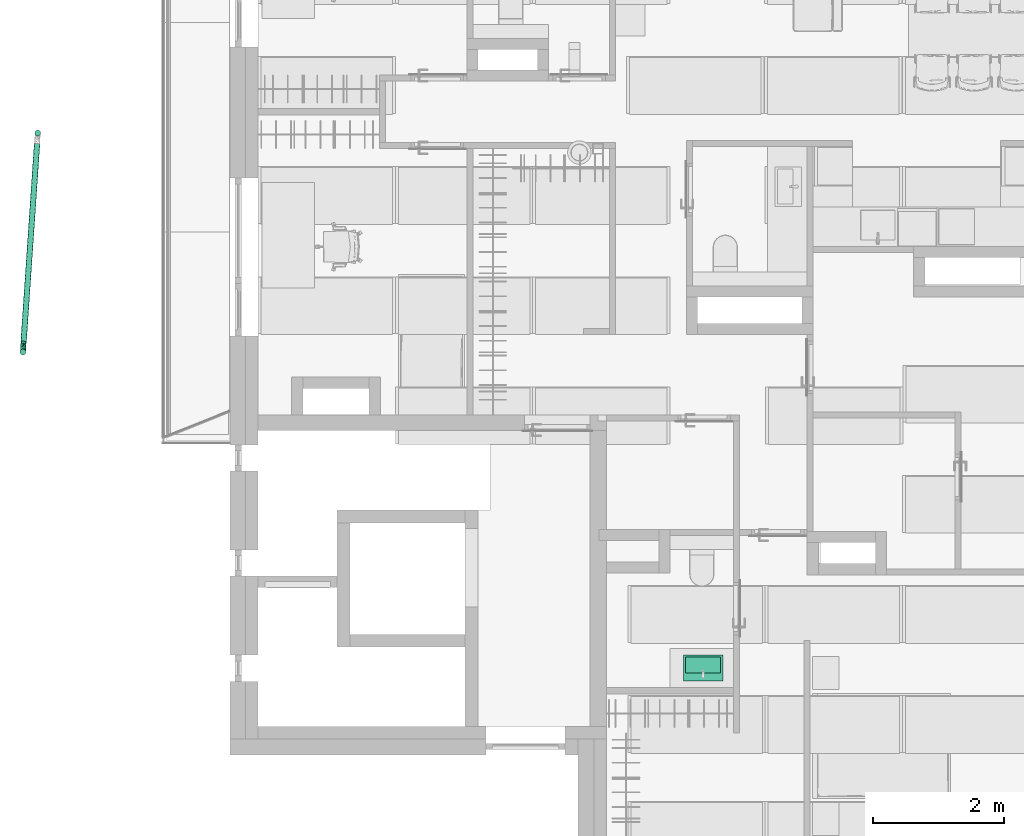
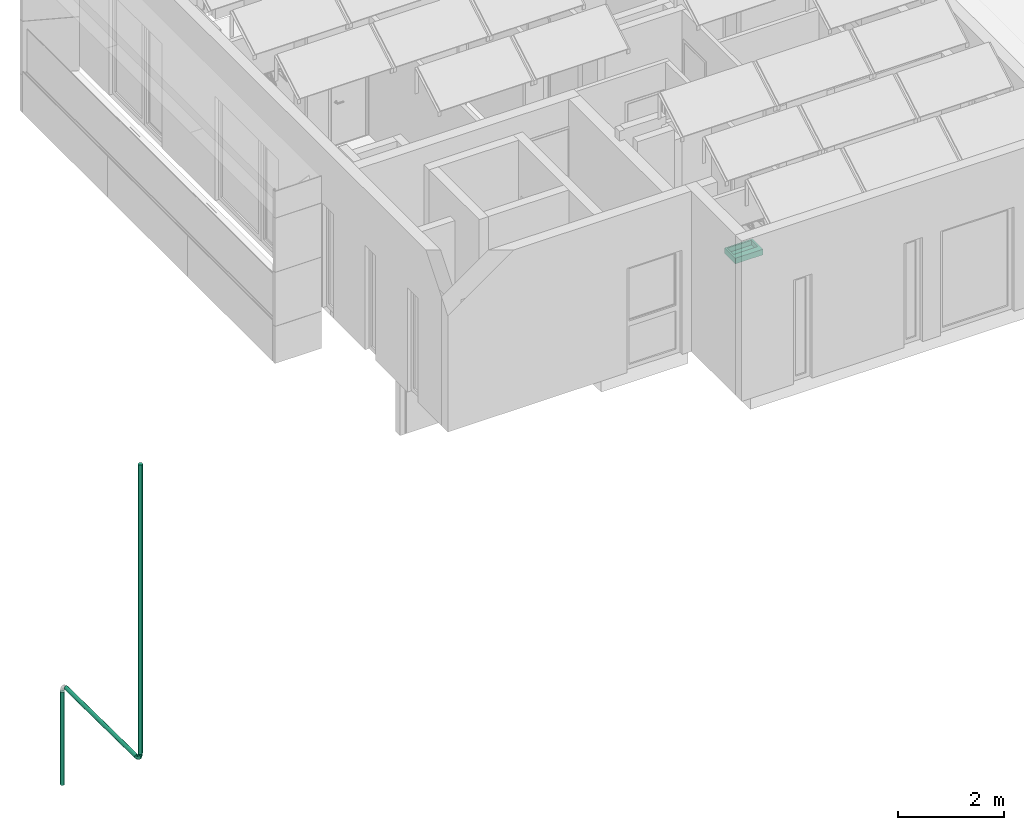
# One storey, part 23 of 57: 3 flow segments, 1 flow fitting, 1 flow terminal.
"""IFC2X3 building model written with IfcOpenShell, lengths in millimetres."""

from ifc_helpers import new_model, entity, si_unit, converted_unit, direction, frame, frame_2d, origin, place, context, subcontext, project, spatial, circle, extrude, faceted_brep, source, transform, mapped, material, type_object, type_shapes, element, save


model = new_model("IFC2X3")

# Units and contexts
model_context = context("Model", 3, precision=0.01, world=origin(), true_north=direction((6.123233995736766e-17, 1.0)))
plan_context = context("Plan", 3, precision=0.01, world=origin(), true_north=direction((6.123233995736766e-17, 1.0)))
body_context = subcontext(model_context, "Body", "Model", "MODEL_VIEW")
ifc_project = project(units=[si_unit("LENGTHUNIT", "METRE", prefix="MILLI"), converted_unit("PLANEANGLEUNIT", "DEGREE", entity("IfcPlaneAngleMeasure", 0.017453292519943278), si_unit("PLANEANGLEUNIT", "RADIAN"), dimensions=[0, 0, 0, 0, 0, 0, 0]), si_unit("AREAUNIT", "SQUARE_METRE")], contexts=[model_context, plan_context])

# Site, building, storey, space
site_placement = place(None, origin())
site = spatial("IfcSite", under=ifc_project, at=site_placement, Name="Default", CompositionType="ELEMENT")
building_placement = place(site_placement, origin())
building = spatial("IfcBuilding", under=site, at=building_placement, CompositionType="ELEMENT")
storey_placement = place(building_placement, frame((0.0, 0.0, 12811.000000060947)))
storey = spatial("IfcBuildingStorey", under=building, at=storey_placement, Name="5K", CompositionType="ELEMENT", Elevation=12811.000000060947)
space_placement = place(storey_placement, origin())
space = spatial("IfcSpace", under=storey, at=space_placement, Name="5-12.8", CompositionType="ELEMENT", InteriorOrExteriorSpace="INTERNAL")

# Flow terminal
ifc_material_1 = material(Name="<Unnamed>")
distribution_element_type = type_object("IfcDistributionElementType", Name="HR_Plumbing-fixtures_Sink_Generic_Bathroom_v1:600 x 400 mm", material=ifc_material_1)
shared_shape_1 = source(origin(), body_context, "Body", "Brep", [
    faceted_brep([(300.0, 0.0, 0.0), (-300.0, 0.0, 0.0), (-300.0, -400.0, 0.0), (300.0, -400.0, 0.0), (-265.0, -125.0, 0.0), (265.0, -125.0, 0.0), (265.0, -365.0, 0.0), (-265.0, -365.0, 0.0), (300.0, 0.0, -130.0), (300.0, -400.0, -130.0), (-300.0, -400.0, -130.0), (-300.0, 0.0, -130.0), (265.0, -125.0, -110.0), (-265.0, -125.0, -110.0), (-265.0, -365.0, -110.0), (265.0, -365.0, -110.0)], [[[0, 1, 2, 3], [4, 5, 6, 7]], [[8, 9, 10, 11]], [[1, 0, 8, 11]], [[2, 1, 11, 10]], [[3, 2, 10, 9]], [[0, 3, 9, 8]], [[12, 13, 14, 15]], [[13, 12, 5, 4]], [[14, 13, 4, 7]], [[15, 14, 7, 6]], [[12, 15, 6, 5]]]),
])
type_shapes(distribution_element_type, [shared_shape_1])
flow_terminal_placement = place(space_placement, frame((6774.9971970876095, 2592.0, 900.0), z_axis=(0.0, 0.0, 1.0), x_axis=(-1.0, 0.0, 0.0)))
element("IfcFlowTerminal", 1, at=flow_terminal_placement, inside=space, type_object=distribution_element_type, material=ifc_material_1, Name="HR_Plumbing-fixtures_Sink_Generic_Bathroom_v1:600 x 400 mm", ObjectType="HR_Plumbing-fixtures_Sink_Generic_Bathroom_v1:600 x 400 mm", context=body_context, shape_type="MappedRepresentation", body=[
    mapped(shared_shape_1, transform((0.0, 0.0, 0.0), scale=1.0)),
])

# Flow segments
ifc_material_2 = material(Name="_K. Metall. Plekk. Värvitud. Valge")
pipe_segment_type = type_object("IfcPipeSegmentType", Name="Pipe Types:Default", PredefinedType="NOTDEFINED", material=ifc_material_2)
flow_segment_1_placement = place(storey_placement, frame((-3627.4438401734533, 7556.996853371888, -3345.999923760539)))
element("IfcFlowSegment", 2, at=flow_segment_1_placement, inside=storey, type_object=pipe_segment_type, Name="Pipe Types:Default", ObjectType="Pipe Types:Default", context=body_context, shape_type="SweptSolid", body=[
    extrude(circle(Radius=44.45, at=frame_2d((0.0, -1.0828671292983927e-12), x_axis=(1.0, 0.0))), frame((46.04527223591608, 46.04527223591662, -6657.927272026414)), (0.0, 0.0, 1.0), 6657.927272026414),
])
flow_segment_2_placement = place(storey_placement, frame((-3616.4198935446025, 7756.740767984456, -10137.139366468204)))
element("IfcFlowSegment", 3, at=flow_segment_2_placement, inside=storey, type_object=pipe_segment_type, Name="Pipe Types:Default", ObjectType="Pipe Types:Default", context=body_context, shape_type="SweptSolid", body=[
    extrude(circle(Radius=44.45, at=frame_2d((7.337440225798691e-14, 1.1293029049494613e-13), x_axis=(1.0, 0.0))), frame((45.943112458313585, 7.115781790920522, -45.801770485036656), z_axis=(0.06738818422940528, 0.9922361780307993, -0.10452846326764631), x_axis=(0.9977016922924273, -0.06775937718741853, 0.0)), (0.0, 0.0, 1.0), 3035.308956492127),
])
flow_segment_3_placement = place(storey_placement, frame((-3401.056307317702, 10890.369059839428, -10679.231258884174)))
element("IfcFlowSegment", 4, at=flow_segment_3_placement, inside=storey, type_object=pipe_segment_type, Name="Pipe Types:Default", ObjectType="Pipe Types:Default", context=body_context, shape_type="SweptSolid", body=[
    extrude(circle(Radius=44.45, at=frame_2d((5.414335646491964e-13, 0.0), x_axis=(1.0, 0.0))), frame((46.04527223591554, 46.04527223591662, -2137.92727202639)), (0.0, 0.0, 1.0), 2137.9272720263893),
])

# Flow fitting
pipe_fitting_type = type_object("IfcPipeFittingType", Name="Elbow - Welded - SS:D+100", PredefinedType="NOTDEFINED", material=ifc_material_1)
shared_shape_2 = source(origin(), body_context, "Body", "Brep", [
    faceted_brep([(-162.07272797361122, 21.0, -36.3730669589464), (-162.07272797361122, 10.870399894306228, -40.568884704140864), (-162.07272797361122, 0.0, -42.0), (-162.07272797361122, -10.870399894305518, -40.56888470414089), (-162.07272797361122, -21.0, -36.37306695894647), (-162.07272797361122, -29.698484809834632, -29.698484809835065), (-162.07272797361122, -36.373066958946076, -21.0), (-162.07272797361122, -40.56888470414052, -10.870399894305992), (-162.07272797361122, -42.0, 0.0), (-162.07272797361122, -40.568884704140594, 10.870399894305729), (-162.07272797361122, -36.37306695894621, 21.0), (-162.07272797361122, -29.698484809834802, 29.698484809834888), (-162.07272797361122, -21.0, 36.37306695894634), (-162.07272797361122, -10.870399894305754, 40.56888470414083), (-162.07272797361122, 0.0, 42.0), (-162.07272797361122, 10.870399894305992, 40.56888470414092), (-162.07272797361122, 21.0, 36.37306695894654), (-162.07272797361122, 29.69848480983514, 29.69848480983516), (-162.07272797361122, 36.3730669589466, 21.0), (-162.07272797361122, 40.5688847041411, 10.870399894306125), (-162.07272797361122, 42.0, 0.0), (-162.07272797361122, 40.56888470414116, -10.870399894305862), (-162.07272797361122, 36.37306695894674, -21.0), (-162.07272797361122, 29.69848480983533, -29.698484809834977), (16.941213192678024, 161.184876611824, -42.0), (6.1303624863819, 162.3211428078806, -40.568884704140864), (-3.9437466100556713, 163.37997434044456, -36.3730669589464), (-12.594580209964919, 164.28921359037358, -29.698484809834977), (-19.232598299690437, 164.98689740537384, -21.0), (-23.405430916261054, 165.42547978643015, -10.870399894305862), (-24.828706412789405, 165.5750720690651, 0.0), (-23.405430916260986, 165.42547978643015, 10.870399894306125), (-19.232598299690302, 164.98689740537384, 21.0), (-12.594580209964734, 164.28921359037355, 29.69848480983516), (-3.9437466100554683, 163.37997434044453, 36.37306695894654), (6.130362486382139, 162.32114280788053, 40.56888470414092), (16.941213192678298, 161.18487661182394, 42.0), (27.752063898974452, 160.0486104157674, 40.56888470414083), (37.82617299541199, 158.9897788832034, 36.37306695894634), (46.47700659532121, 158.08053963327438, 29.698484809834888), (53.11502468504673, 157.3828558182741, 21.0), (57.28785730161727, 156.94427343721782, 10.870399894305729), (58.71113279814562, 156.79468115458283, 0.0), (57.28785730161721, 156.94427343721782, -10.870399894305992), (53.11502468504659, 157.38285581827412, -21.0), (46.477006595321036, 158.0805396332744, -29.698484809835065), (37.82617299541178, 158.9897788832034, -36.37306695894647), (27.752063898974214, 160.04861041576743, -40.56888470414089), (-110.56733650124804, 41.731487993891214, 26.66447147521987), (-96.97531827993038, -30.588546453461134, 11.409689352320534), (-115.91633261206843, -37.14876736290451, 0.0), (-71.77719321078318, -22.807091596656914, 0.0), (-117.65635294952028, -21.580303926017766, 32.65289887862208), (-67.02680210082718, -6.717553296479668, 29.879340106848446), (-81.44922119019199, -0.7545087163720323, 37.985157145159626), (-31.584401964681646, 0.39822724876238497, 0.0), (-52.46885327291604, -12.10830557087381, 8.28109867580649), (-128.5507731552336, -38.74077397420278, 7.665883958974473), (-121.4654040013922, 30.102435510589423, 33.96958931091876), (-105.50169997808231, -26.534581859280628, 24.460598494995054), (-14.582607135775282, 16.195626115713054, 11.409689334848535), (-55.226449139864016, -10.116958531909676, 17.709233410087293), (2.905423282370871, 31.45300538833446, 0.0), (17.526463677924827, 50.91576092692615, 8.281098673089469), (30.184911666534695, 69.0, 0.0), (49.061818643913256, 111.39822724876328, 0.0), (40.55766024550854, 93.24670370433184, 11.40968933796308), (-124.48403403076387, -13.299346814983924, 38.44097240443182), (51.58924932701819, 122.57985946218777, 7.937631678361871), (21.9772933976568, 69.84574062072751, 23.9593857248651), (37.417153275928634, 102.15013170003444, 24.460598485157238), (-131.81244201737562, -36.97926915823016, 15.38887600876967), (11.316322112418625, 110.64701490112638, 41.45489639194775), (-131.22577070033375, 18.241571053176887, 39.10364315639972), (-14.8272829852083, 43.61641709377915, 36.54291873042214), (-27.094842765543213, 44.48150818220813, 40.45964027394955), (-48.287288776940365, 19.983022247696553, 38.68773764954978), (-27.61751167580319, 135.8830238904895, 16.803737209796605), (-120.66021736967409, 9.384167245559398, 41.765696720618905), (-11.559181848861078, 80.37087827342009, 41.997022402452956), (-3.935290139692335, 75.66370100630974, 40.92172074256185), (-17.24093920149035, 123.94656510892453, 33.96958931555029), (-29.9454447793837, 114.3237653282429, 26.66447148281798), (-132.25182644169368, 41.669863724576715, 16.803737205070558), (-106.03351894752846, 48.01388393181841, 20.58438754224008), (-100.01661743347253, 54.07574904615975, 13.951054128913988), (3.2796673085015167, 120.98014064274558, 41.765696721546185), (-128.17389313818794, 45.31366043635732, 8.585112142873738), (-36.6673380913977, 110.47147367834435, 20.584387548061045), (-67.6658136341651, 75.15049941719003, 15.809105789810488), (-64.57303448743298, 71.7156201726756, 24.25417203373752), (-111.22375666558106, 0.3114323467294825, 41.454896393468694), (-85.70469417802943, 65.0568687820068, 0.0), (-122.18633999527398, 47.88990934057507, 0.0), (-72.62091876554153, 53.993574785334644, 33.39511468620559), (9.264137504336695, 80.92416641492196, 37.98515713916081), (26.238616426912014, 122.41193731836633, 38.44097240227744), (-15.694391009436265, 21.185331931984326, 21.661341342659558), (-71.76037081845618, -14.55603142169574, 23.95938575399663), (13.686962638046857, 65.95744692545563, 29.87934005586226), (33.760522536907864, 114.75606312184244, 32.652898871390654), (15.834272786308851, 53.86640295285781, 17.70923340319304), (-41.30964661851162, 4.170445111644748, 25.5863793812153), (-40.40309524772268, 85.91490640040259, 32.82897046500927), (-69.29565525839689, 76.96062193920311, 7.378264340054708), (-55.74190047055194, 92.03548941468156, 0.0), (-31.667607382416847, 132.20831042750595, 8.585112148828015), (-43.32493313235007, 105.121170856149, 13.951054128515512), (-34.85561305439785, 126.52284906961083, 0.0), (-4.424813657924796, 132.41366559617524, 39.1036431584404), (-47.58448069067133, 65.05978990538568, 38.055921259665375), (-33.9023860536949, 67.89311462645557, 40.859997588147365), (-18.886781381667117, 96.7841946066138, 39.458380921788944), (-74.0404588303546, 11.972112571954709, 40.86643261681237), (-78.72233474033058, 19.89690384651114, 41.997022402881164), (-85.72543998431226, 24.853456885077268, 41.39798282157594), (-94.27979441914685, 28.90002076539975, 39.458380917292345), (-54.85152587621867, 6.971313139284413, 34.77188383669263), (-22.22424710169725, 24.682527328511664, 30.38065262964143), (-14.189052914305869, 90.2422279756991, 41.4111109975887), (-43.10767931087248, 47.87592808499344, 41.9418407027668), (-62.59305792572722, 42.38813045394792, 40.7434848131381), (-121.25875142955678, 20.210400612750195, -39.1992802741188), (-110.44262917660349, 11.91464013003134, -41.79309081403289), (-19.4287662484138, 17.822885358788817, -21.66134132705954), (5.085518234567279, 47.91842040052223, -25.925743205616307), (15.834272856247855, 53.866403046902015, -17.709233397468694), (-122.27113228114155, -2.1691353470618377, -41.49920716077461), (-118.33974329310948, 39.22490951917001, -26.495295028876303), (-93.9673993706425, 52.851472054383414, -22.027237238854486), (-86.31195071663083, 50.94742629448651, -29.029347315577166), (-133.00303818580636, 27.700793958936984, -33.78508441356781), (-97.72281546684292, 38.06499010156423, -34.3562086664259), (-113.41492077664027, -11.074257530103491, -38.32895492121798), (-128.17389413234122, 45.313660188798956, -8.585112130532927), (22.86867887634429, 111.63604668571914, -38.32895493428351), (0.029757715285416, 64.27693910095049, -37.36946677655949), (-10.002251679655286, 69.66545285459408, -41.254032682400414), (-100.01661951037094, 54.07574798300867, -13.951054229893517), (-69.29565660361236, 76.96062077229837, -7.378264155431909), (-132.2518275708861, 41.66986345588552, -16.803737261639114), (-117.98610741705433, -29.369597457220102, -24.71150713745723), (-107.92880939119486, -32.50321399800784, -14.835873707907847), (36.90798286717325, 125.92752952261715, -32.828695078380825), (26.751685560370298, 77.80659630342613, -23.655377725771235), (-78.4756907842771, 21.3156744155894, -41.99508820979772), (-82.96434562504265, 30.18505596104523, -40.64521433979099), (-48.69396816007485, 41.170315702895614, -41.99319609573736), (-119.65579642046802, -37.14444728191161, -7.909468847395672), (-14.582607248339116, 16.19562602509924, -11.40968936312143), (-55.22644961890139, -10.116958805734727, -17.709233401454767), (-81.34843167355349, -19.316929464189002, -23.15085994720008), (-52.4688534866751, -12.108305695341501, -8.281098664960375), (41.54161418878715, 114.2698082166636, -24.71150715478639), (-86.17189432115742, -27.822444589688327, -7.907135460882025), (43.60679055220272, 103.94005302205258, -14.83587372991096), (-53.37441160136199, -2.59149649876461, -26.60722543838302), (-22.224247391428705, 24.682527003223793, -30.38065258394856), (-48.44927780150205, 31.228640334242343, -41.37854983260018), (14.305097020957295, 119.33538463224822, -41.49099663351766), (-43.32493123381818, 105.12117377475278, -13.951054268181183), (-67.66581605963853, 75.15049709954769, -15.80910603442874), (-31.667607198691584, 132.20831109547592, -8.585111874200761), (-26.640160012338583, 121.79158450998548, -26.49529523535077), (-64.57303628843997, 71.71561796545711, -24.25417264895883), (-13.646443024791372, 135.16995454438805, -33.78508444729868), (-31.463170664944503, 36.299900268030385, -39.531382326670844), (-7.723719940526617, 121.84331767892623, -39.207809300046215), (-1.9333185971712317, 107.11715426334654, -41.80376289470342), (-20.73882569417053, 71.33342871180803, -41.964758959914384), (-50.40386396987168, 55.979161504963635, -39.90032698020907), (-22.036099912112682, 85.40848497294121, -40.531375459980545), (-27.64165095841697, 101.1663534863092, -34.35620870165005), (-89.12329936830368, -13.687298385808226, -32.196958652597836), (-129.09562019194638, -23.54278596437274, -32.82869506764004), (17.52646370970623, 50.915760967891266, -8.281098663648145), (36.677446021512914, 82.79159830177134, -7.907135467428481), (-62.684604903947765, 7.529601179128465, -37.42722822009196), (-60.46297514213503, 64.72509926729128, -32.71777436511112), (-75.96840255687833, 42.875482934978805, -37.907810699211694), (49.44840266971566, 115.11765758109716, -7.909468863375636), (-27.617510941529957, 135.88302595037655, -16.803737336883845), (-53.51448545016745, 62.550865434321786, -36.89707501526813), (-42.9764425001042, 98.69910921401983, -21.96337418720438), (-42.75860684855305, 89.81366830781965, -28.942336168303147), (-78.05908230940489, 12.25152735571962, -41.304654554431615), (22.928239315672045, 87.20436013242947, -32.19695867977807), (-52.63684415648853, 5.0819286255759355, -32.72110060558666), (1.822865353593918, 53.76319127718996, -32.2754437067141), (-29.96013532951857, 27.10919935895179, -35.738457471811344)], [[[0, 1, 2, 3, 4, 5, 6, 7, 8, 9, 10, 11, 12, 13, 14, 15, 16, 17, 18, 19, 20, 21, 22, 23]], [[24, 25, 26, 27, 28, 29, 30, 31, 32, 33, 34, 35, 36, 37, 38, 39, 40, 41, 42, 43, 44, 45, 46, 47]], [[18, 17, 48]], [[49, 50, 51]], [[52, 53, 54]], [[51, 55, 56]], [[57, 8, 50]], [[48, 17, 58]], [[10, 59, 11]], [[56, 60, 61]], [[60, 62, 63]], [[51, 56, 49]], [[11, 59, 52]], [[64, 65, 66]], [[13, 12, 67]], [[68, 66, 65]], [[69, 66, 70]], [[49, 71, 57]], [[72, 37, 36]], [[15, 73, 16]], [[74, 75, 76]], [[77, 32, 31]], [[15, 14, 78]], [[79, 80, 72]], [[81, 33, 82]], [[83, 84, 85]], [[72, 36, 86]], [[20, 19, 87]], [[88, 89, 90]], [[67, 91, 13]], [[87, 92, 93]], [[90, 48, 94]], [[14, 91, 78]], [[13, 91, 14]], [[55, 62, 60]], [[70, 40, 39]], [[72, 95, 96]], [[59, 10, 71]], [[60, 97, 61]], [[66, 68, 40]], [[98, 49, 61]], [[99, 69, 70]], [[100, 39, 38]], [[66, 40, 70]], [[9, 71, 10]], [[63, 66, 101]], [[102, 53, 98]], [[90, 94, 103]], [[11, 52, 12]], [[41, 68, 42]], [[70, 100, 99]], [[82, 32, 77]], [[92, 104, 105]], [[106, 105, 107]], [[38, 37, 96]], [[108, 106, 30]], [[48, 58, 94]], [[70, 39, 100]], [[17, 16, 58]], [[79, 72, 86]], [[85, 89, 104]], [[32, 82, 33]], [[19, 83, 87]], [[106, 107, 77]], [[18, 83, 19]], [[81, 34, 33]], [[109, 35, 34]], [[90, 82, 88]], [[90, 89, 84]], [[62, 64, 63]], [[97, 60, 101]], [[110, 111, 112]], [[36, 35, 86]], [[79, 75, 80]], [[91, 113, 114]], [[115, 78, 114]], [[73, 58, 16]], [[58, 116, 94]], [[112, 103, 110]], [[112, 81, 103]], [[103, 81, 82]], [[109, 81, 112]], [[53, 52, 59]], [[67, 52, 54]], [[98, 53, 59]], [[117, 76, 54]], [[96, 100, 38]], [[95, 74, 99]], [[95, 99, 100]], [[99, 118, 97]], [[109, 86, 35]], [[111, 79, 119]], [[114, 78, 91]], [[73, 78, 116]], [[90, 103, 82]], [[103, 94, 110]], [[111, 119, 112]], [[79, 120, 75]], [[120, 114, 113]], [[75, 113, 76]], [[91, 54, 113]], [[120, 121, 115]], [[94, 116, 110]], [[111, 121, 120]], [[60, 56, 55]], [[49, 56, 61]], [[66, 63, 64]], [[60, 63, 101]], [[72, 96, 37]], [[100, 96, 95]], [[52, 67, 12]], [[91, 67, 54]], [[97, 101, 69]], [[118, 53, 102]], [[76, 113, 54]], [[120, 113, 75]], [[117, 54, 53]], [[75, 74, 95]], [[117, 74, 76]], [[99, 74, 118]], [[53, 118, 117]], [[74, 117, 118]], [[81, 109, 34]], [[109, 112, 119]], [[78, 73, 15]], [[58, 73, 116]], [[106, 77, 31]], [[88, 77, 107]], [[30, 106, 31]], [[105, 106, 108]], [[48, 83, 18]], [[87, 83, 85]], [[92, 87, 85]], [[20, 87, 93]], [[88, 107, 89]], [[82, 77, 88]], [[83, 48, 84]], [[90, 84, 48]], [[75, 95, 80]], [[95, 72, 80]], [[121, 110, 116]], [[79, 111, 120]], [[110, 121, 111]], [[115, 121, 116]], [[79, 86, 119]], [[109, 119, 86]], [[78, 115, 116]], [[120, 115, 114]], [[107, 105, 104]], [[84, 89, 85]], [[85, 104, 92]], [[107, 104, 89]], [[57, 71, 9]], [[59, 71, 49]], [[8, 57, 9]], [[49, 57, 50]], [[42, 68, 65]], [[40, 68, 41]], [[49, 98, 59]], [[102, 61, 97]], [[61, 102, 98]], [[118, 102, 97]], [[97, 69, 99]], [[66, 69, 101]], [[1, 122, 123]], [[124, 125, 126]], [[127, 3, 2]], [[128, 129, 130]], [[131, 128, 132]], [[4, 3, 133]], [[93, 134, 20]], [[135, 136, 137]], [[138, 134, 92]], [[0, 23, 131]], [[105, 139, 92]], [[21, 140, 22]], [[6, 141, 142]], [[46, 143, 135]], [[126, 125, 144]], [[145, 127, 123]], [[6, 142, 7]], [[146, 147, 145]], [[8, 7, 148]], [[124, 149, 150]], [[151, 142, 141]], [[152, 149, 55]], [[45, 44, 153]], [[152, 154, 150]], [[43, 155, 44]], [[154, 148, 142]], [[124, 126, 149]], [[156, 157, 124]], [[158, 145, 147]], [[51, 152, 55]], [[1, 0, 122]], [[135, 159, 47]], [[139, 160, 161]], [[6, 5, 141]], [[30, 29, 162]], [[122, 146, 123]], [[163, 28, 27]], [[164, 129, 161]], [[27, 165, 163]], [[137, 136, 166]], [[167, 25, 168]], [[2, 1, 123]], [[24, 47, 159]], [[44, 155, 153]], [[169, 147, 170]], [[25, 167, 26]], [[148, 154, 50]], [[165, 27, 26]], [[171, 172, 167]], [[24, 168, 25]], [[62, 55, 149]], [[47, 46, 135]], [[173, 174, 133]], [[175, 176, 64]], [[46, 45, 143]], [[133, 177, 173]], [[62, 175, 64]], [[132, 178, 179]], [[65, 180, 42]], [[28, 181, 29]], [[29, 181, 162]], [[176, 65, 64]], [[128, 23, 22]], [[149, 126, 175]], [[179, 178, 182]], [[5, 4, 174]], [[183, 184, 164]], [[105, 108, 162]], [[176, 180, 65]], [[134, 138, 140]], [[127, 133, 3]], [[177, 133, 185]], [[136, 135, 186]], [[159, 137, 168]], [[140, 128, 22]], [[129, 138, 161]], [[172, 178, 184]], [[163, 183, 181]], [[171, 167, 168]], [[165, 167, 172]], [[144, 155, 126]], [[143, 153, 186]], [[174, 141, 5]], [[173, 156, 151]], [[131, 122, 0]], [[146, 179, 170]], [[137, 159, 135]], [[168, 24, 159]], [[145, 158, 185]], [[156, 187, 157]], [[123, 127, 2]], [[133, 127, 185]], [[125, 188, 186]], [[157, 187, 189]], [[149, 175, 62]], [[176, 126, 155]], [[154, 152, 51]], [[149, 152, 150]], [[179, 122, 132]], [[146, 170, 147]], [[170, 171, 169]], [[158, 137, 166]], [[136, 188, 189]], [[158, 177, 185]], [[156, 124, 150]], [[124, 157, 125]], [[151, 156, 150]], [[187, 173, 177]], [[188, 125, 157]], [[144, 186, 153]], [[189, 188, 157]], [[136, 186, 188]], [[186, 144, 125]], [[155, 144, 153]], [[171, 168, 169]], [[171, 170, 182]], [[168, 137, 169]], [[137, 147, 169]], [[126, 176, 175]], [[176, 155, 180]], [[155, 43, 180]], [[42, 180, 43]], [[50, 154, 51]], [[150, 154, 142]], [[8, 148, 50]], [[7, 142, 148]], [[133, 174, 4]], [[141, 174, 173]], [[153, 143, 45]], [[135, 143, 186]], [[134, 140, 21]], [[140, 138, 129]], [[20, 134, 21]], [[92, 134, 93]], [[163, 181, 28]], [[162, 181, 160]], [[105, 162, 160]], [[30, 162, 108]], [[122, 179, 146]], [[130, 132, 128]], [[184, 178, 164]], [[179, 182, 170]], [[178, 172, 182]], [[171, 182, 172]], [[173, 187, 156]], [[189, 177, 166]], [[177, 189, 187]], [[136, 189, 166]], [[128, 131, 23]], [[122, 131, 132]], [[167, 165, 26]], [[163, 165, 172]], [[142, 151, 150]], [[173, 151, 141]], [[164, 161, 183]], [[172, 184, 163]], [[181, 183, 160]], [[163, 184, 183]], [[138, 92, 139]], [[183, 161, 160]], [[160, 139, 105]], [[138, 139, 161]], [[130, 164, 178]], [[140, 129, 128]], [[164, 130, 129]], [[132, 130, 178]], [[127, 145, 185]], [[146, 145, 123]], [[137, 158, 147]], [[177, 158, 166]]]),
])
type_shapes(pipe_fitting_type, [shared_shape_2])
flow_fitting_placement = place(storey_placement, frame((-3581.398567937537, 7603.042125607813, -10165.999923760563), z_axis=(0.9977016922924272, -0.06775937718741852, 0.0), x_axis=(0.0, 0.0, -1.0)))
element("IfcFlowFitting", 5, at=flow_fitting_placement, inside=storey, type_object=pipe_fitting_type, material=ifc_material_1, Name="Elbow - Welded - SS:D+100", ObjectType="Elbow - Welded - SS:D+100", context=body_context, shape_type="MappedRepresentation", body=[
    mapped(shared_shape_2, transform((0.0, 0.0, 0.0), scale=1.0)),
])

save(model, "model.ifc")
